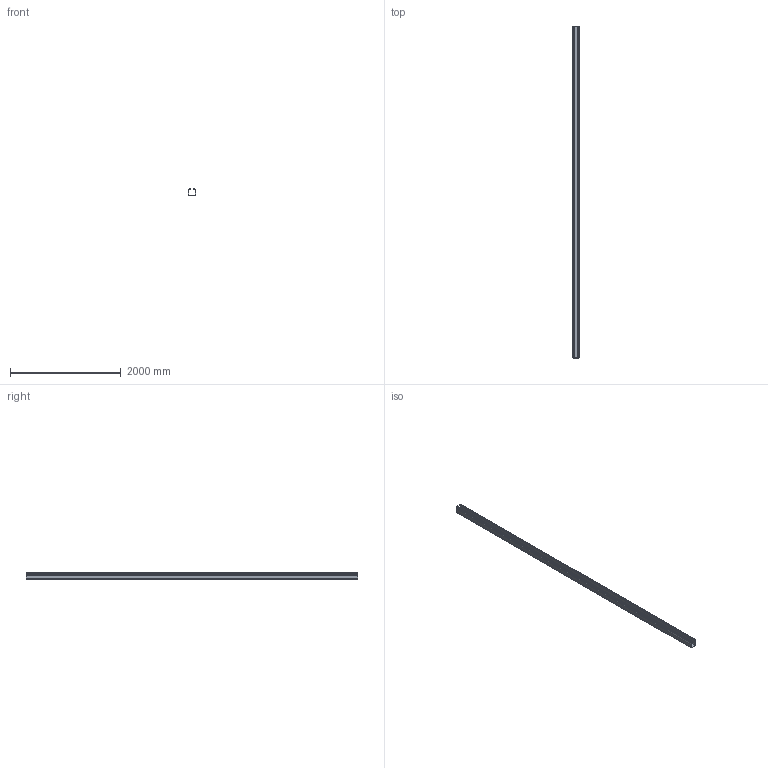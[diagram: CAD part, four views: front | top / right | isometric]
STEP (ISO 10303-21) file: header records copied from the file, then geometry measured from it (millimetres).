
FILE_DESCRIPTION(('STEP AP203'), '1');
FILE_NAME('ﾐﾋ014.05.00.600 ﾍ瑜粱 ﾌﾀﾊﾑ', '', ('UNSPECIFIED'), ('UNSPECIFIED'), 'ASCON STEP Converter 1.6', 'ASCON Math Kernel', '');
FILE_SCHEMA(('CONFIG_CONTROL_DESIGN'));
Length unit declared in the file: millimetre
Products named in the file (1): 倓014.05.00.600
Bounding box: 130 x 6000 x 135 mm (x, y, z)
Volume: 13409745.4 mm3; surface area: 5428368.1 mm2
Topology: 1 solids, 1 shells, 54 faces, 156 edges, 104 vertices
Faces by surface type: plane 30, cylinder 24
Entity records: 2264 total; most frequent: CARTESIAN_POINT 315, DIRECTION 314, ORIENTED_EDGE 312, EDGE_CURVE 156, LINE 108, VECTOR 108, VERTEX_POINT 104, AXIS2_PLACEMENT_3D 103
